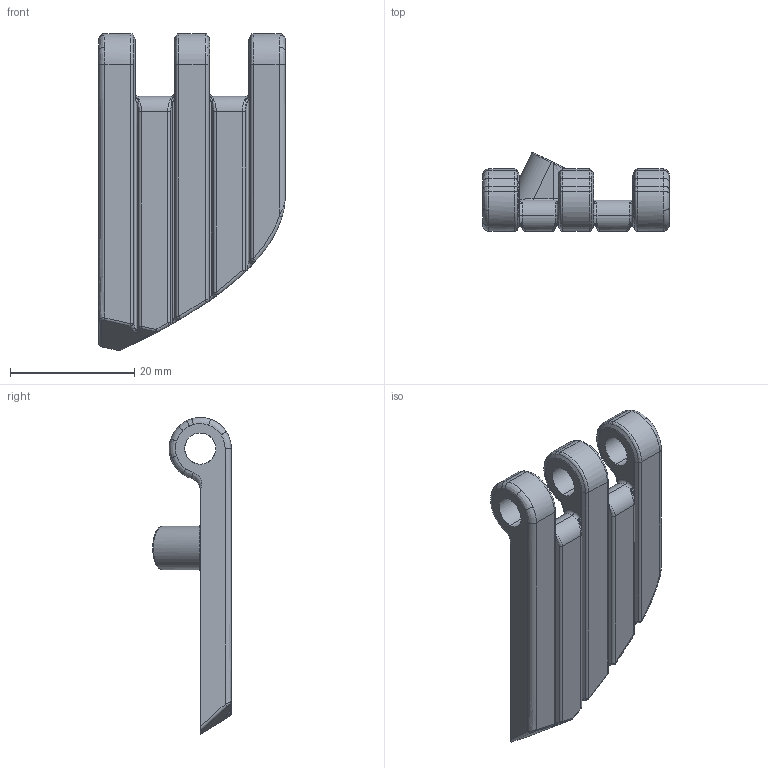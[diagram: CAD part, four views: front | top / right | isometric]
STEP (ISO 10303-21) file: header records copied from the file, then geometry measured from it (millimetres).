
FILE_DESCRIPTION (( 'STEP AP214' ), '1' );
FILE_NAME ('IDD-008-1.1.0-003_Kette_Endstück_2.STEP', '2021-08-18T14:48:36', ( '' ), ( '' ), 'SwSTEP 2.0', 'SolidWorks 2018', '' );
FILE_SCHEMA (( 'AUTOMOTIVE_DESIGN' ));
Length unit declared in the file: millimetre
Products named in the file (1): IDD-008-1.1.0-003_Kette_Endstück_2
Bounding box: 30 x 12.65 x 50.96 mm (x, y, z)
Volume: 6146.7 mm3; surface area: 4001.1 mm2
Topology: 1 solids, 1 shells, 262 faces, 635 edges, 355 vertices
Faces by surface type: bspline 129, cylinder 79, plane 26, torus 15, sphere 13
Entity records: 14413 total; most frequent: CARTESIAN_POINT 9472, ORIENTED_EDGE 1226, DIRECTION 773, EDGE_CURVE 613, VERTEX_POINT 355, AXIS2_PLACEMENT_3D 320, EDGE_LOOP 270, FACE_OUTER_BOUND 262
